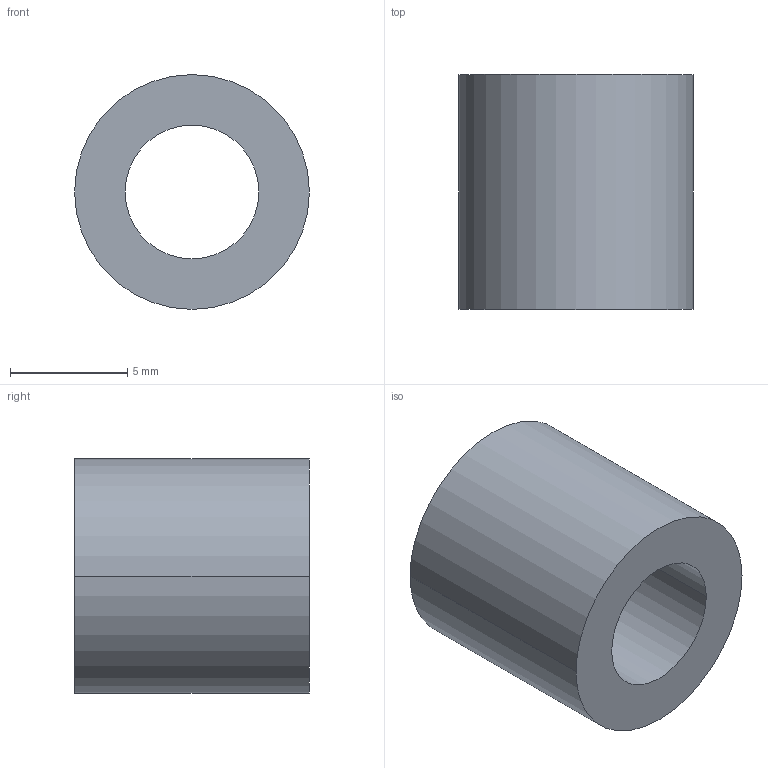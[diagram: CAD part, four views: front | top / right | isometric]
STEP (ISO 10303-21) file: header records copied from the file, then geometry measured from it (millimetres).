
FILE_DESCRIPTION (( 'STEP AP203' ), '1' );
FILE_NAME ('30800.WPP10D5.7.step', '2019-01-23T22:23:36', ( '' ), ( '' ), 'SwSTEP 2.0', 'SolidWorks 2017', '' );
FILE_SCHEMA (( 'CONFIG_CONTROL_DESIGN' ));
Length unit declared in the file: millimetre
Products named in the file (1): 30800.WPP10D5.7
Bounding box: 10 x 10 x 10 mm (x, y, z)
Volume: 520.6 mm3; surface area: 588.7 mm2
Topology: 1 solids, 1 shells, 8 faces, 16 edges, 10 vertices
Faces by surface type: cylinder 4, torus 2, plane 2
Entity records: 297 total; most frequent: DIRECTION 46, CARTESIAN_POINT 35, ORIENTED_EDGE 32, AXIS2_PLACEMENT_3D 21, EDGE_CURVE 16, CIRCLE 12, VERTEX_POINT 10, EDGE_LOOP 10
